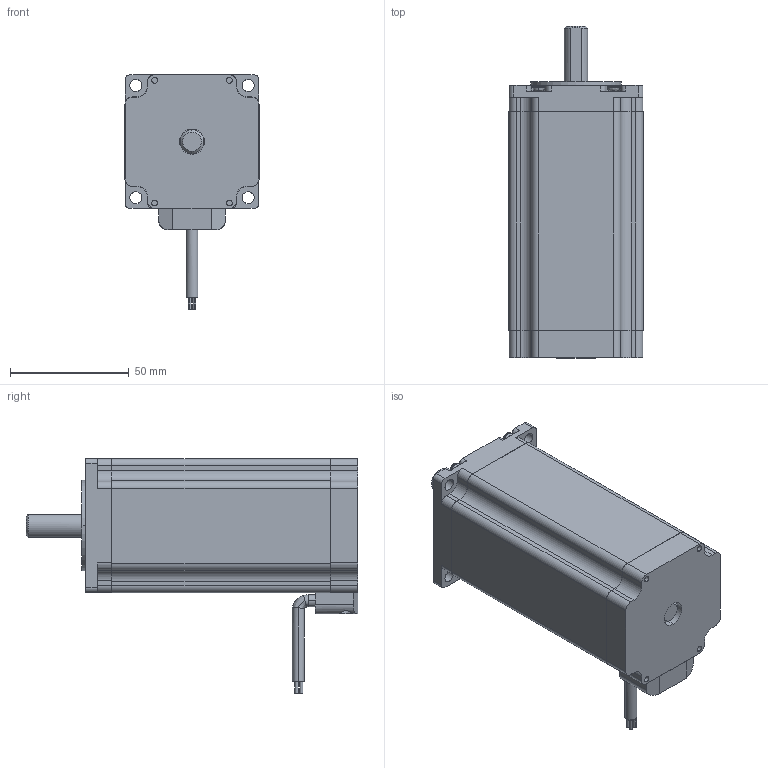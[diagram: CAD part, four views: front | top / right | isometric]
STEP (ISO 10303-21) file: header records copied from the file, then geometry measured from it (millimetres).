
FILE_DESCRIPTION (( 'STEP AP214' ), '1' );
FILE_NAME ('57BYGH2115-10-A.STEP', '2020-05-21T07:33:52', ( 'Windows' ), ( 'Microsoft' ), 'SwSTEP 2.0', 'SolidWorks 2015', '' );
FILE_SCHEMA (( 'AUTOMOTIVE_DESIGN' ));
Length unit declared in the file: millimetre
Products named in the file (7): 57BYGH2115-10-A; 57隅赽92; 57綴傷裔; 57ヶ傷裔; 57BYGH2115A-10-粣; M3蹟隊; 揤盄裔
Assembly tree (9 placements, depth 2):
  57BYGH2115-10-A
    57隅赽92
    57綴傷裔
    57ヶ傷裔
    57BYGH2115A-10-粣
    M3蹟隊  x4
    揤盄裔
Bounding box: 56.4 x 139.5 x 98.73 mm (x, y, z)
Volume: 341634.7 mm3; surface area: 54717.2 mm2
Topology: 9 solids, 9 shells, 296 faces, 771 edges, 503 vertices
Faces by surface type: cylinder 153, plane 117, bspline 22, cone 4
Entity records: 10091 total; most frequent: CARTESIAN_POINT 1573, DIRECTION 1302, ORIENTED_EDGE 1200, EDGE_CURVE 600, AXIS2_PLACEMENT_3D 492, VERTEX_POINT 395, VECTOR 318, LINE 318
